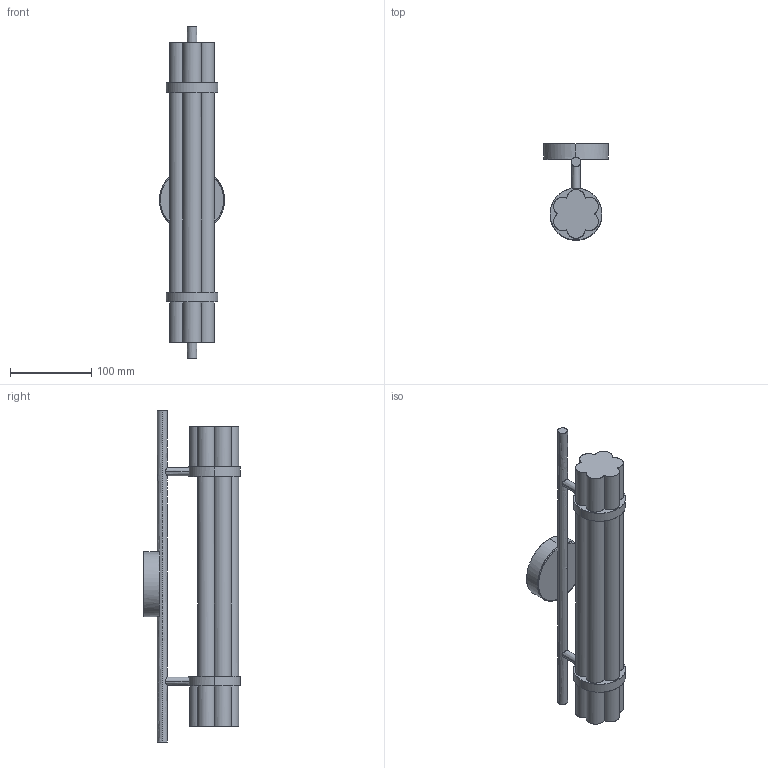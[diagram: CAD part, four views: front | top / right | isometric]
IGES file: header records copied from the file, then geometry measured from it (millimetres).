
Start section: SolidWorks IGES file using analytic representation for surfaces
Global section: file name: C:\Users\adrian\Desktop\Nueva Colección Enero 2026\3D\drive-download-20251230T145340Z-1-001\TASTA\A1355.step.IGS; native system: SolidWorks 2023; preprocessor: SolidWorks 2023; author: adrian; date: 251230.170358; units: millimetre
Bounding box: 80 x 119 x 409 mm (x, y, z)
Surface area: 137156.7 mm2 (no closed solid volume)
Topology: 0 solids, 0 shells, 195 faces, 1694 edges, 1694 vertices
Faces by surface type: bspline 160, revolution 35
